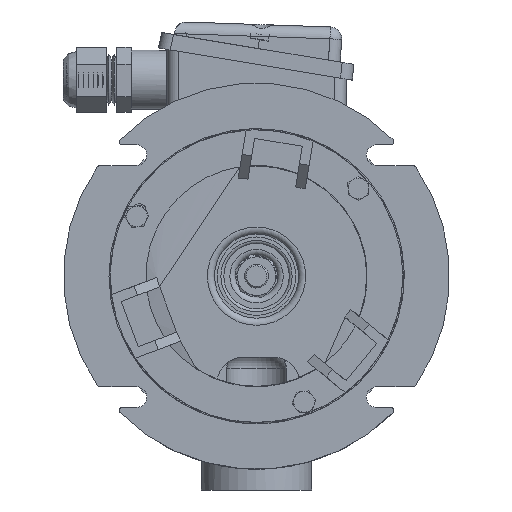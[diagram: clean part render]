
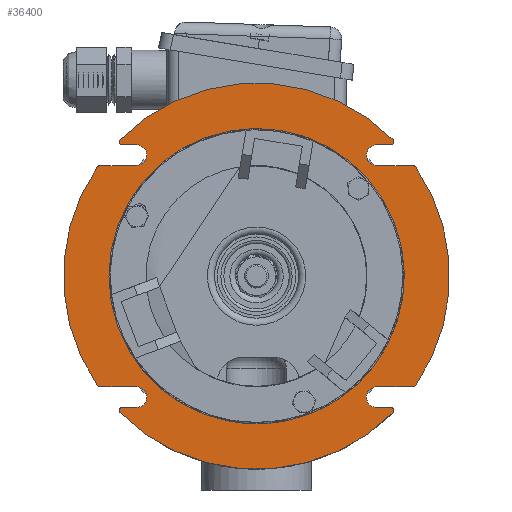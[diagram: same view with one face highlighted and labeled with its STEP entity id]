
A CAD part, front view. The second image highlights one B-rep face of the part: STEP entity #36400.
In plain terms, the highlighted planar face has unit normal (0, -1, 0).
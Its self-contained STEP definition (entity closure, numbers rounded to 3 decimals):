
#710=FACE_BOUND('',#11330,.T.);
#1612=PLANE('',#39511);
#4158=LINE('',#70012,#6858);
#4161=LINE('',#70022,#6861);
#4162=LINE('',#70026,#6862);
#4163=LINE('',#70034,#6863);
#4164=LINE('',#70038,#6864);
#4165=LINE('',#70046,#6865);
#4166=LINE('',#70050,#6866);
#4167=LINE('',#70058,#6867);
#6858=VECTOR('',#47867,1.);
#6861=VECTOR('',#47876,1.);
#6862=VECTOR('',#47879,1.);
#6863=VECTOR('',#47886,1.);
#6864=VECTOR('',#47889,1.);
#6865=VECTOR('',#47896,1.);
#6866=VECTOR('',#47899,1.);
#6867=VECTOR('',#47906,1.);
#9257=FACE_OUTER_BOUND('',#11329,.T.);
#11329=EDGE_LOOP('',(#31358,#31359,#31360,#31361,#31362,#31363,#31364,#31365,
#31366,#31367,#31368,#31369,#31370,#31371,#31372,#31373,#31374,#31375,#31376,
#31377,#31378,#31379,#31380,#31381));
#11330=EDGE_LOOP('',(#31382,#31383));
#13679=CIRCLE('',#39509,0.1);
#13680=CIRCLE('',#39512,6.5);
#13681=CIRCLE('',#39513,0.1);
#13682=CIRCLE('',#39514,0.35);
#13683=CIRCLE('',#39515,0.1);
#13684=CIRCLE('',#39516,6.5);
#13685=CIRCLE('',#39517,0.1);
#13686=CIRCLE('',#39518,0.35);
#13687=CIRCLE('',#39519,0.1);
#13688=CIRCLE('',#39520,6.5);
#13689=CIRCLE('',#39521,0.1);
#13690=CIRCLE('',#39522,0.35);
#13691=CIRCLE('',#39523,0.1);
#13692=CIRCLE('',#39524,6.5);
#13693=CIRCLE('',#39525,0.1);
#13694=CIRCLE('',#39526,0.35);
#13695=CIRCLE('',#39527,4.97);
#13696=CIRCLE('',#39528,4.97);
#16832=VERTEX_POINT('',#70005);
#16833=VERTEX_POINT('',#70007);
#16834=VERTEX_POINT('',#70011);
#16836=VERTEX_POINT('',#70017);
#16837=VERTEX_POINT('',#70019);
#16838=VERTEX_POINT('',#70021);
#16839=VERTEX_POINT('',#70023);
#16840=VERTEX_POINT('',#70025);
#16841=VERTEX_POINT('',#70027);
#16842=VERTEX_POINT('',#70029);
#16843=VERTEX_POINT('',#70031);
#16844=VERTEX_POINT('',#70033);
#16845=VERTEX_POINT('',#70035);
#16846=VERTEX_POINT('',#70037);
#16847=VERTEX_POINT('',#70039);
#16848=VERTEX_POINT('',#70041);
#16849=VERTEX_POINT('',#70043);
#16850=VERTEX_POINT('',#70045);
#16851=VERTEX_POINT('',#70047);
#16852=VERTEX_POINT('',#70049);
#16853=VERTEX_POINT('',#70051);
#16854=VERTEX_POINT('',#70053);
#16855=VERTEX_POINT('',#70055);
#16856=VERTEX_POINT('',#70057);
#16857=VERTEX_POINT('',#70060);
#16858=VERTEX_POINT('',#70061);
#21775=EDGE_CURVE('',#16832,#16833,#13679,.T.);
#21777=EDGE_CURVE('',#16834,#16833,#4158,.T.);
#21780=EDGE_CURVE('',#16832,#16836,#13680,.T.);
#21781=EDGE_CURVE('',#16837,#16836,#13681,.T.);
#21782=EDGE_CURVE('',#16837,#16838,#4161,.T.);
#21783=EDGE_CURVE('',#16839,#16838,#13682,.T.);
#21784=EDGE_CURVE('',#16839,#16840,#4162,.T.);
#21785=EDGE_CURVE('',#16841,#16840,#13683,.T.);
#21786=EDGE_CURVE('',#16841,#16842,#13684,.T.);
#21787=EDGE_CURVE('',#16843,#16842,#13685,.T.);
#21788=EDGE_CURVE('',#16843,#16844,#4163,.T.);
#21789=EDGE_CURVE('',#16845,#16844,#13686,.T.);
#21790=EDGE_CURVE('',#16845,#16846,#4164,.T.);
#21791=EDGE_CURVE('',#16847,#16846,#13687,.T.);
#21792=EDGE_CURVE('',#16847,#16848,#13688,.T.);
#21793=EDGE_CURVE('',#16849,#16848,#13689,.T.);
#21794=EDGE_CURVE('',#16849,#16850,#4165,.T.);
#21795=EDGE_CURVE('',#16851,#16850,#13690,.T.);
#21796=EDGE_CURVE('',#16851,#16852,#4166,.T.);
#21797=EDGE_CURVE('',#16853,#16852,#13691,.T.);
#21798=EDGE_CURVE('',#16853,#16854,#13692,.T.);
#21799=EDGE_CURVE('',#16855,#16854,#13693,.T.);
#21800=EDGE_CURVE('',#16855,#16856,#4167,.T.);
#21801=EDGE_CURVE('',#16834,#16856,#13694,.T.);
#21802=EDGE_CURVE('',#16857,#16858,#13695,.T.);
#21803=EDGE_CURVE('',#16858,#16857,#13696,.T.);
#31358=ORIENTED_EDGE('',*,*,#21775,.F.);
#31359=ORIENTED_EDGE('',*,*,#21780,.T.);
#31360=ORIENTED_EDGE('',*,*,#21781,.F.);
#31361=ORIENTED_EDGE('',*,*,#21782,.T.);
#31362=ORIENTED_EDGE('',*,*,#21783,.F.);
#31363=ORIENTED_EDGE('',*,*,#21784,.T.);
#31364=ORIENTED_EDGE('',*,*,#21785,.F.);
#31365=ORIENTED_EDGE('',*,*,#21786,.T.);
#31366=ORIENTED_EDGE('',*,*,#21787,.F.);
#31367=ORIENTED_EDGE('',*,*,#21788,.T.);
#31368=ORIENTED_EDGE('',*,*,#21789,.F.);
#31369=ORIENTED_EDGE('',*,*,#21790,.T.);
#31370=ORIENTED_EDGE('',*,*,#21791,.F.);
#31371=ORIENTED_EDGE('',*,*,#21792,.T.);
#31372=ORIENTED_EDGE('',*,*,#21793,.F.);
#31373=ORIENTED_EDGE('',*,*,#21794,.T.);
#31374=ORIENTED_EDGE('',*,*,#21795,.F.);
#31375=ORIENTED_EDGE('',*,*,#21796,.T.);
#31376=ORIENTED_EDGE('',*,*,#21797,.F.);
#31377=ORIENTED_EDGE('',*,*,#21798,.T.);
#31378=ORIENTED_EDGE('',*,*,#21799,.F.);
#31379=ORIENTED_EDGE('',*,*,#21800,.T.);
#31380=ORIENTED_EDGE('',*,*,#21801,.F.);
#31381=ORIENTED_EDGE('',*,*,#21777,.T.);
#31382=ORIENTED_EDGE('',*,*,#21802,.F.);
#31383=ORIENTED_EDGE('',*,*,#21803,.F.);
#36400=ADVANCED_FACE('',(#9257,#710),#1612,.T.);
#39509=AXIS2_PLACEMENT_3D('',#70008,#47862,#47863);
#39511=AXIS2_PLACEMENT_3D('',#70016,#47870,#47871);
#39512=AXIS2_PLACEMENT_3D('',#70018,#47872,#47873);
#39513=AXIS2_PLACEMENT_3D('',#70020,#47874,#47875);
#39514=AXIS2_PLACEMENT_3D('',#70024,#47877,#47878);
#39515=AXIS2_PLACEMENT_3D('',#70028,#47880,#47881);
#39516=AXIS2_PLACEMENT_3D('',#70030,#47882,#47883);
#39517=AXIS2_PLACEMENT_3D('',#70032,#47884,#47885);
#39518=AXIS2_PLACEMENT_3D('',#70036,#47887,#47888);
#39519=AXIS2_PLACEMENT_3D('',#70040,#47890,#47891);
#39520=AXIS2_PLACEMENT_3D('',#70042,#47892,#47893);
#39521=AXIS2_PLACEMENT_3D('',#70044,#47894,#47895);
#39522=AXIS2_PLACEMENT_3D('',#70048,#47897,#47898);
#39523=AXIS2_PLACEMENT_3D('',#70052,#47900,#47901);
#39524=AXIS2_PLACEMENT_3D('',#70054,#47902,#47903);
#39525=AXIS2_PLACEMENT_3D('',#70056,#47904,#47905);
#39526=AXIS2_PLACEMENT_3D('',#70059,#47907,#47908);
#39527=AXIS2_PLACEMENT_3D('',#70062,#47909,#47910);
#39528=AXIS2_PLACEMENT_3D('',#70063,#47911,#47912);
#47862=DIRECTION('center_axis',(0.,1.,0.));
#47863=DIRECTION('ref_axis',(0.466,0.,-0.885));
#47867=DIRECTION('',(1.,0.,0.));
#47870=DIRECTION('center_axis',(0.,-1.,0.));
#47871=DIRECTION('ref_axis',(0.,0.,-1.));
#47872=DIRECTION('center_axis',(0.,-1.,0.));
#47873=DIRECTION('ref_axis',(1.,0.,0.));
#47874=DIRECTION('center_axis',(0.,1.,0.));
#47875=DIRECTION('ref_axis',(0.466,0.,0.885));
#47876=DIRECTION('',(-1.,0.,0.));
#47877=DIRECTION('center_axis',(0.,-1.,0.));
#47878=DIRECTION('ref_axis',(-0.707,0.,0.707));
#47879=DIRECTION('',(1.,0.,0.));
#47880=DIRECTION('center_axis',(0.,1.,0.));
#47881=DIRECTION('ref_axis',(0.924,0.,-0.383));
#47882=DIRECTION('center_axis',(0.,-1.,0.));
#47883=DIRECTION('ref_axis',(1.,0.,0.));
#47884=DIRECTION('center_axis',(0.,1.,0.));
#47885=DIRECTION('ref_axis',(-0.924,0.,-0.383));
#47886=DIRECTION('',(1.,0.,0.));
#47887=DIRECTION('center_axis',(0.,-1.,0.));
#47888=DIRECTION('ref_axis',(0.707,0.,-0.707));
#47889=DIRECTION('',(-1.,0.,0.));
#47890=DIRECTION('center_axis',(0.,1.,0.));
#47891=DIRECTION('ref_axis',(-0.466,0.,0.885));
#47892=DIRECTION('center_axis',(0.,-1.,0.));
#47893=DIRECTION('ref_axis',(1.,0.,0.));
#47894=DIRECTION('center_axis',(0.,1.,0.));
#47895=DIRECTION('ref_axis',(-0.466,0.,-0.885));
#47896=DIRECTION('',(1.,0.,0.));
#47897=DIRECTION('center_axis',(0.,-1.,0.));
#47898=DIRECTION('ref_axis',(0.707,0.,-0.707));
#47899=DIRECTION('',(-1.,0.,0.));
#47900=DIRECTION('center_axis',(0.,1.,0.));
#47901=DIRECTION('ref_axis',(-0.924,0.,0.383));
#47902=DIRECTION('center_axis',(0.,-1.,0.));
#47903=DIRECTION('ref_axis',(1.,0.,0.));
#47904=DIRECTION('center_axis',(0.,1.,0.));
#47905=DIRECTION('ref_axis',(0.924,0.,0.383));
#47906=DIRECTION('',(-1.,0.,0.));
#47907=DIRECTION('center_axis',(0.,-1.,0.));
#47908=DIRECTION('ref_axis',(-0.707,0.,0.707));
#47909=DIRECTION('center_axis',(0.,-1.,0.));
#47910=DIRECTION('ref_axis',(1.,0.,0.));
#47911=DIRECTION('center_axis',(0.,-1.,0.));
#47912=DIRECTION('ref_axis',(1.,0.,0.));
#70005=CARTESIAN_POINT('',(5.357,0.223,-3.682));
#70007=CARTESIAN_POINT('',(5.274,0.223,-3.725));
#70008=CARTESIAN_POINT('Origin',(5.274,0.223,-3.625));
#70011=CARTESIAN_POINT('',(4.05,0.223,-3.725));
#70012=CARTESIAN_POINT('',(6.463,0.223,-3.725));
#70016=CARTESIAN_POINT('Origin',(4.97,0.223,0.));
#70017=CARTESIAN_POINT('',(5.357,0.223,3.682));
#70018=CARTESIAN_POINT('Origin',(0.,0.223,0.));
#70019=CARTESIAN_POINT('',(5.274,0.223,3.725));
#70020=CARTESIAN_POINT('Origin',(5.274,0.223,3.625));
#70021=CARTESIAN_POINT('',(4.05,0.223,3.725));
#70022=CARTESIAN_POINT('',(6.463,0.223,3.725));
#70023=CARTESIAN_POINT('',(4.05,0.223,4.425));
#70024=CARTESIAN_POINT('Origin',(4.05,0.223,4.075));
#70025=CARTESIAN_POINT('',(4.526,0.223,4.425));
#70026=CARTESIAN_POINT('',(4.335,0.223,4.425));
#70027=CARTESIAN_POINT('',(4.597,0.223,4.596));
#70028=CARTESIAN_POINT('Origin',(4.526,0.223,4.525));
#70029=CARTESIAN_POINT('',(-4.597,0.223,4.596));
#70030=CARTESIAN_POINT('Origin',(0.,0.223,0.));
#70031=CARTESIAN_POINT('',(-4.526,0.223,4.425));
#70032=CARTESIAN_POINT('Origin',(-4.526,0.223,4.525));
#70033=CARTESIAN_POINT('',(-4.05,0.223,4.425));
#70034=CARTESIAN_POINT('',(0.635,0.223,4.425));
#70035=CARTESIAN_POINT('',(-4.05,0.223,3.725));
#70036=CARTESIAN_POINT('Origin',(-4.05,0.223,4.075));
#70037=CARTESIAN_POINT('',(-5.274,0.223,3.725));
#70038=CARTESIAN_POINT('',(-1.493,0.223,3.725));
#70039=CARTESIAN_POINT('',(-5.357,0.223,3.682));
#70040=CARTESIAN_POINT('Origin',(-5.274,0.223,3.625));
#70041=CARTESIAN_POINT('',(-5.357,0.223,-3.682));
#70042=CARTESIAN_POINT('Origin',(0.,0.223,0.));
#70043=CARTESIAN_POINT('',(-5.274,0.223,-3.725));
#70044=CARTESIAN_POINT('Origin',(-5.274,0.223,-3.625));
#70045=CARTESIAN_POINT('',(-4.05,0.223,-3.725));
#70046=CARTESIAN_POINT('',(-1.493,0.223,-3.725));
#70047=CARTESIAN_POINT('',(-4.05,0.223,-4.425));
#70048=CARTESIAN_POINT('Origin',(-4.05,0.223,-4.075));
#70049=CARTESIAN_POINT('',(-4.526,0.223,-4.425));
#70050=CARTESIAN_POINT('',(0.635,0.223,-4.425));
#70051=CARTESIAN_POINT('',(-4.597,0.223,-4.596));
#70052=CARTESIAN_POINT('Origin',(-4.526,0.223,-4.525));
#70053=CARTESIAN_POINT('',(4.597,0.223,-4.596));
#70054=CARTESIAN_POINT('Origin',(0.,0.223,0.));
#70055=CARTESIAN_POINT('',(4.526,0.223,-4.425));
#70056=CARTESIAN_POINT('Origin',(4.526,0.223,-4.525));
#70057=CARTESIAN_POINT('',(4.05,0.223,-4.425));
#70058=CARTESIAN_POINT('',(4.335,0.223,-4.425));
#70059=CARTESIAN_POINT('Origin',(4.05,0.223,-4.075));
#70060=CARTESIAN_POINT('',(4.97,0.223,0.));
#70061=CARTESIAN_POINT('',(-4.97,0.223,0.));
#70062=CARTESIAN_POINT('Origin',(0.,0.223,0.));
#70063=CARTESIAN_POINT('Origin',(0.,0.223,0.));
